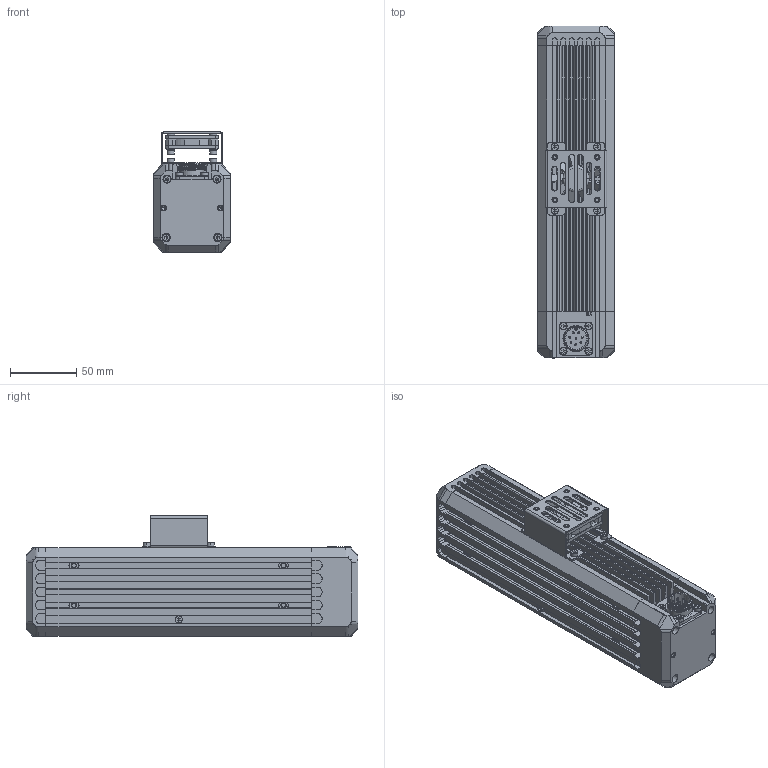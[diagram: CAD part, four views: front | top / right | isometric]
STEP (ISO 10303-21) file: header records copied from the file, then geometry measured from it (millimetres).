
FILE_DESCRIPTION((''),'2;1');
FILE_NAME('MV-LTDS-H-200-W_ASM_1_ASM','2025-06-03T14:47:43',('huguozhe'),(''),'CREO PARAMETRIC BY PTC INC, 2020044','CREO PARAMETRIC BY PTC INC, 2020044','');
FILE_SCHEMA(('AUTOMOTIVE_DESIGN { 1 0 10303 214 1 1 1 1 }'));
Products named in the file (26): DE-15-000614_1; DE-15-000613_ASM_1_ASM; DE-15-000616_1; DE-15-000615_ASM_1_ASM; SC-HSCM3X6B-GB70_1_1; DE-14-015561_1; DE-14-016112_ASM_1_ASM; DE-14-015560_1_1; DE-14-016113_ASM_1_1_ASM; DE-14-016113_ASM_ASM; 19M-H_2_1_1; 19M-8H-8P_1; 19M-8H_ASM_1_ASM; 19M-8H_ASM_ASM; DE-12-001651_1; SC-AM3X10NL-BNI-SCM435-GB70_1_1; SC-HSCM3X8-SUS316_1; DE-11-019911_1; 8002-CLS-M3-1_1; DE-11-019911_ASM_1_ASM; 101800527_01_1; 101800527_02_1; 101800527_MGA4012HB-O10_ASM_1_ASM; SC-ASFM3X14NL-BNI-SUS316L_1; NUT-M4-GB6170_1; MV-LTDS-H-200-W_ASM_1_ASM
Assembly tree (54 placements, depth 4):
  MV-LTDS-H-200-W_ASM_1_ASM
    DE-15-000613_ASM_1_ASM
      DE-15-000614_1
    DE-15-000615_ASM_1_ASM  x2
      DE-15-000616_1
    SC-HSCM3X6B-GB70_1_1  x2
    DE-14-016112_ASM_1_ASM
      DE-14-015561_1
    DE-14-016113_ASM_ASM
      DE-14-016113_ASM_1_1_ASM
        DE-14-015560_1_1
    19M-8H_ASM_ASM
      19M-8H_ASM_1_ASM
        19M-H_2_1_1
        19M-8H-8P_1
    DE-12-001651_1
    SC-AM3X10NL-BNI-SCM435-GB70_1_1  x12
    SC-HSCM3X8-SUS316_1  x4
    DE-11-019911_ASM_1_ASM
      DE-11-019911_1
      8002-CLS-M3-1_1  x4
    101800527_MGA4012HB-O10_ASM_1_ASM
      101800527_01_1
      101800527_02_1
    SC-ASFM3X14NL-BNI-SUS316L_1  x4
    NUT-M4-GB6170_1  x8
Bounding box: 58 x 250 x 90.6 mm (x, y, z)
Volume: 746586.3 mm3; surface area: 222022.3 mm2
Topology: 45 solids, 117 shells, 2570 faces, 6928 edges, 4468 vertices
Faces by surface type: plane 1182, cylinder 860, cone 384, torus 110, bspline 18, sphere 16
Entity records: 68607 total; most frequent: CARTESIAN_POINT 15553, DIRECTION 9235, ORIENTED_EDGE 8620, EDGE_CURVE 4378, AXIS2_PLACEMENT_3D 3445, VERTEX_POINT 2926, VECTOR 2345, LINE 2345
